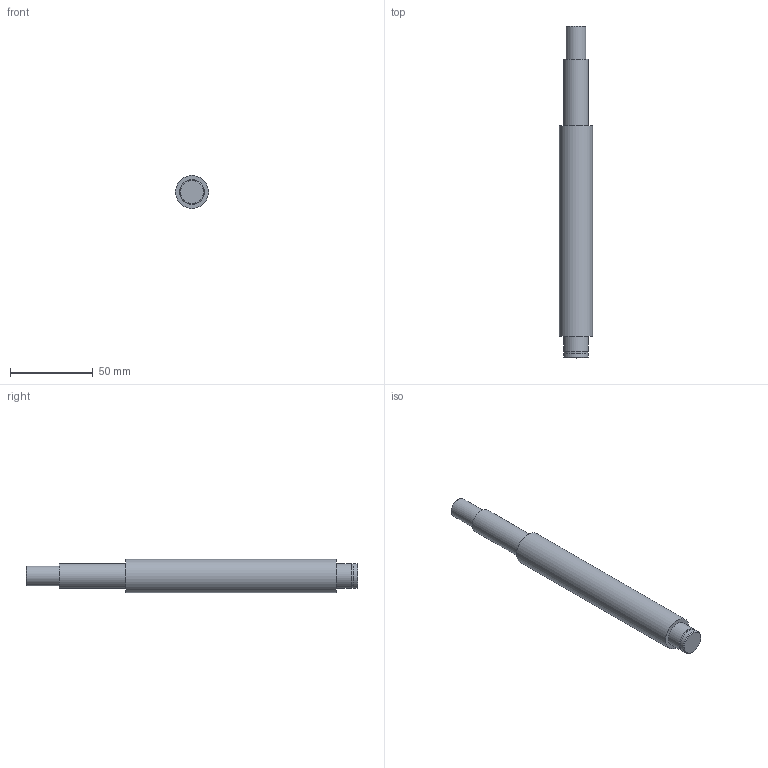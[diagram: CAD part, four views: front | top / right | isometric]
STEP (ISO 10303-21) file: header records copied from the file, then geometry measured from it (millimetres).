
FILE_DESCRIPTION(/* description */ (''),/* implementation_level */ '2;1');
FILE_NAME(/* name */ 'C:\Users\David\Desktop\stepFiles\Profilfuehrung\KUS2005x200.stp',/* time_stamp */ '2018-06-24T15:12:07+02:00',/* author */ ('David'),/* organization */ (''),/* preprocessor_version */ 'ST-DEVELOPER v17',/* originating_system */ 'Autodesk Inventor 2019',/* authorisation */ '');
FILE_SCHEMA (('AUTOMOTIVE_DESIGN { 1 0 10303 214 3 1 1 }'));
Length unit declared in the file: millimetre
Products named in the file (1): SFU2005xvaiabel
Bounding box: 20 x 200 x 20 mm (x, y, z)
Volume: 51497.2 mm3; surface area: 11863.7 mm2
Topology: 1 solids, 1 shells, 15 faces, 34 edges, 26 vertices
Faces by surface type: plane 7, cylinder 6, cone 2
Full cylindrical faces by diameter (mm): 12 x1, 14.3 x1, 15 x3, 20 x1
Entity records: 493 total; most frequent: DIRECTION 92, CARTESIAN_POINT 76, ORIENTED_EDGE 68, AXIS2_PLACEMENT_3D 42, EDGE_CURVE 34, CIRCLE 26, VERTEX_POINT 26, EDGE_LOOP 20
